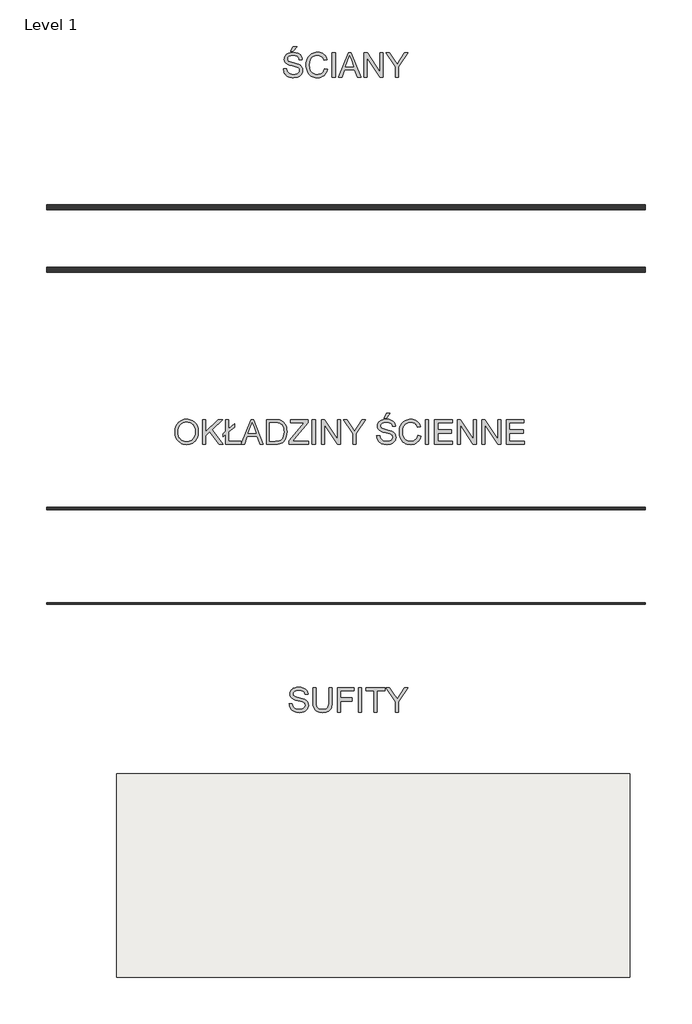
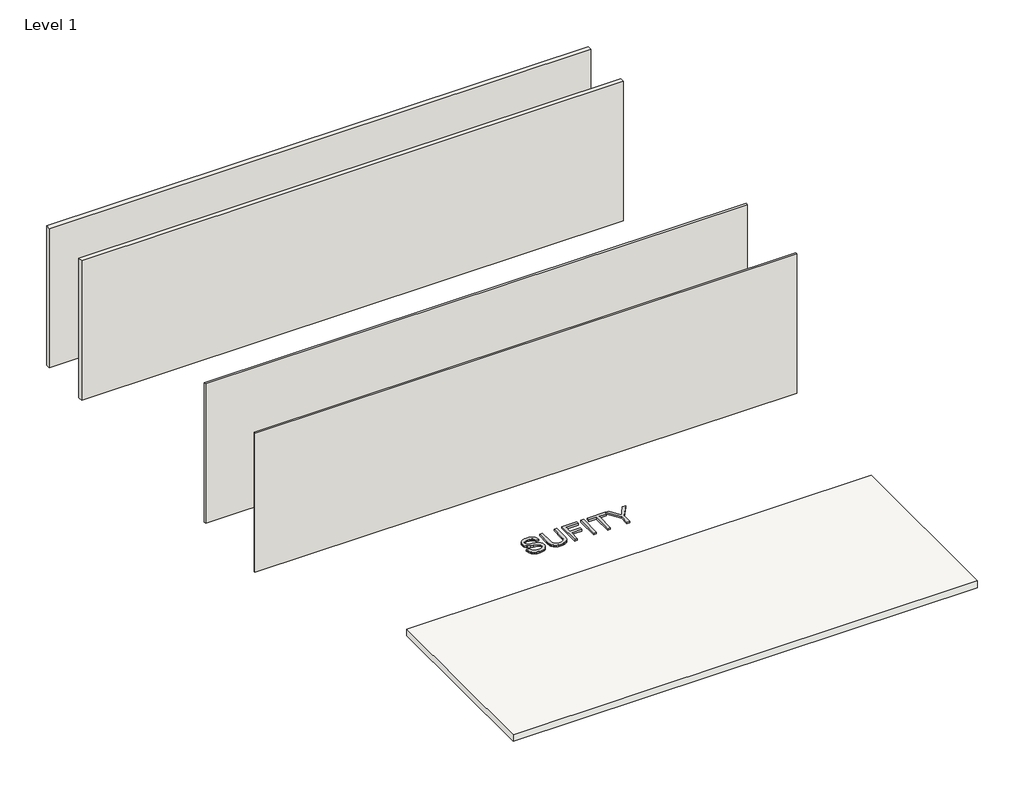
# One storey: 4 walls, 3 proxies, 1 covering.
"""IFC4 building model written with IfcOpenShell, lengths in millimetres."""

from ifc_helpers import new_model, si_unit, frame, origin, origin_with_axes, place, context, project, spatial, polyline, outline, extrude, element, save

model = new_model("IFC4")

# Units and contexts
model_context = context("Model", 3, world=origin())
ifc_project = project(units=[si_unit("LENGTHUNIT", "METRE", prefix="MILLI")], contexts=[model_context])

# Site, building, storey
site = spatial("IfcSite", under=ifc_project)
building = spatial("IfcBuilding", under=site)
storey = spatial("IfcBuildingStorey", under=building, Name="Level 1", Elevation=0.0)

# Proxies
placement = place(None, origin())
element("IfcBuildingElementProxy", 1, Name="600mm Arial", ObjectType="600mm Arial", at=placement, inside=storey, context=model_context, shape_type="SweptSolid", body=[
    extrude(outline(polyline([(366.0588519, 10396.8706448), (441.4010845, 10396.8706448), (450.0463114, 10355.060856), (465.6812962, 10321.4548358), (490.0718724, 10294.7833911), (524.9838738, 10273.7773292), (567.6581852, 10260.1473013), (615.3356918, 10255.6039587), (657.3110275, 10259.0436553), (694.0624388, 10269.3627453), (723.8424863, 10285.6967059), (744.9037305, 10307.1810144), (757.4301124, 10331.8475022), (761.6055731, 10357.7280005), (758.4785761, 10382.9463113), (749.0975853, 10404.7433195), (730.0412979, 10423.3397544), (697.8884115, 10438.956345), (588.1860006, 10467.7247171), (516.1731, 10486.7626103), (470.0958801, 10504.8807986), (432.5903107, 10530.2278681), (406.0108366, 10560.9460146), (390.1735167, 10596.3730508), (384.89441, 10635.8467889), (386.5268864, 10658.282992), (391.4243154, 10679.9742342), (399.5866972, 10700.9205153), (411.0140317, 10721.1218353), (425.5775602, 10739.7550584), (443.148524, 10755.9970485), (463.7269231, 10769.8478056), (487.3127575, 10781.3073298), (540.324553, 10796.7031913), (599.0017312, 10801.8351451), (662.57174, 10796.464068), (718.1954977, 10780.3508366), (742.5308916, 10768.3486865), (763.8864415, 10753.8265447), (782.2621471, 10736.7844113), (797.6580086, 10717.2222862), (809.9544643, 10695.7103865), (819.0319525, 10672.8189294), (824.8904733, 10648.5479147), (827.5300266, 10622.8973426), (752.187794, 10622.8973426), (747.1478107, 10646.938431), (738.355431, 10667.8525224), (725.810655, 10685.6396169), (709.5134826, 10700.2997144), (689.1604112, 10711.7592386), (664.4479382, 10719.944613), (635.3760635, 10724.8558376), (601.9447872, 10726.4929125), (567.4466531, 10724.8742317), (537.9701082, 10720.0181894), (513.5151526, 10711.9247855), (494.0817862, 10700.59402), (479.2745359, 10686.9731891), (468.6979285, 10672.009589), (462.3519641, 10655.7032196), (460.2366426, 10638.0540808), (461.7357618, 10622.8697515), (466.2331192, 10609.1017678), (473.7287148, 10596.7501298), (484.2225487, 10585.8148375), (500.7404503, 10575.4589594), (526.7497074, 10564.9927166), (607.2422879, 10543.7291373), (690.3100424, 10523.5324157), (740.562723, 10505.9108682), (783.5129459, 10478.5772359), (800.1182195, 10462.5099898), (813.4769344, 10444.842457), (823.7454406, 10425.666608), (831.0800879, 10405.0744133), (836.9478057, 10359.6409869), (835.260147, 10336.0735466), (830.1971711, 10313.195885), (821.7588778, 10291.0080022), (809.9452673, 10269.5098981), (794.963273, 10249.5339057), (777.0198287, 10231.9123582), (756.1149343, 10216.6452554), (732.2485899, 10203.7325973), (706.1151726, 10193.4640911), (678.4090599, 10186.1294439), (618.2787478, 10180.261726), (579.7385102, 10181.8436186), (544.4632254, 10186.5892964), (512.4528933, 10194.4987593), (483.7075139, 10205.5720073), (458.0523433, 10219.8274346), (435.3126375, 10237.2834353), (415.4883965, 10257.9400093), (398.5796202, 10281.7971567), (384.9587894, 10308.0823253), (374.9983844, 10336.0229628), (368.6984052, 10365.6190693), (366.0588519, 10396.8706448)])), origin_with_axes(), (0.0, 0.0, 1.0), 50.0),
    extrude(outline(polyline([(544.9966543, 10830.0884823), (601.5033288, 10943.1018312), (695.6811196, 10943.1018312), (601.5033288, 10830.0884823), (544.9966543, 10830.0884823)])), origin_with_axes(), (0.0, 0.0, 1.0), 50.0),
    extrude(outline(polyline([(1373.7612131, 10403.9339791), (1449.1034457, 10384.5098098), (1434.1950278, 10337.6554392), (1414.3385971, 10296.7147716), (1389.5341536, 10261.6878071), (1359.7816972, 10232.5745458), (1325.7526127, 10209.6876871), (1288.1182846, 10193.339931), (1246.8787129, 10183.5312773), (1202.0338977, 10180.261726), (1156.090035, 10182.7357325), (1114.6435298, 10190.1577517), (1077.6943819, 10202.5277838), (1045.2425914, 10219.8458287), (1016.8421013, 10241.8543691), (992.0468549, 10268.2958875), (970.8568519, 10299.1703839), (953.2720926, 10334.4778584), (939.4627222, 10372.6916007), (929.5988862, 10412.2849004), (923.6805846, 10453.2577576), (921.7078174, 10495.6101723), (923.938102, 10541.0527958), (930.6289558, 10583.497181), (941.7803788, 10622.9433279), (957.3923709, 10659.3912366), (977.1154444, 10692.2385002), (1000.6001113, 10720.8827121), (1027.8463715, 10745.3238721), (1058.8542252, 10765.5619804), (1092.57061, 10781.4314899), (1127.9424639, 10792.7668539), (1164.9697867, 10799.5680723), (1203.6525785, 10801.8351451), (1246.7453557, 10798.9012862), (1286.2604805, 10790.0997094), (1322.1979529, 10775.4304149), (1354.5577729, 10754.8934025), (1382.8065116, 10729.0312982), (1406.4107401, 10698.386728), (1425.3704585, 10662.9596919), (1439.6856666, 10622.7501898), (1364.343434, 10604.7975485), (1352.4792396, 10634.4258447), (1338.2238123, 10659.7407245), (1321.577152, 10680.7421879), (1302.5392588, 10697.4302349), (1280.999768, 10710.1451563), (1256.848315, 10719.2272431), (1230.0848998, 10724.6764951), (1200.7095225, 10726.4929125), (1166.9103642, 10724.4787586), (1135.9990796, 10718.4362968), (1107.9756686, 10708.3655272), (1082.8401313, 10694.2664497), (1060.9097658, 10676.7736608), (1042.5018705, 10656.521757), (1027.6164453, 10633.5107382), (1016.2534901, 10607.7406044), (1001.85091, 10552.5950934), (997.05005, 10495.7573251), (1002.7338268, 10426.1540516), (1009.8385479, 10394.884082), (1019.7851573, 10365.9685572), (1032.7346035, 10339.9822928), (1048.8478349, 10317.5001043), (1068.1248515, 10298.5219919), (1090.5656532, 10283.0479555), (1115.0803896, 10271.0412069), (1140.5792104, 10262.4649579), (1167.0621155, 10257.3192085), (1194.529105, 10255.6039587), (1227.2843982, 10257.9400093), (1257.4185321, 10264.9481613), (1284.9315068, 10276.6284147), (1309.8233223, 10292.9807694), (1331.5053674, 10313.931649), (1349.3890309, 10339.4074772), (1363.4743128, 10369.4082539), (1373.7612131, 10403.9339791)])), origin_with_axes(), (0.0, 0.0, 1.0), 50.0),
    extrude(outline(polyline([(1562.1167946, 10189.6795051), (1562.1167946, 10792.417366), (1637.4590272, 10792.417366), (1637.4590272, 10189.6795051), (1562.1167946, 10189.6795051)])), origin_with_axes(), (0.0, 0.0, 1.0), 50.0),
    extrude(outline(polyline([(1717.9516077, 10189.6795051), (1958.5464326, 10792.417366), (2022.7050526, 10792.417366), (2263.2998774, 10189.6795051), (2183.6902136, 10189.6795051), (2114.6755513, 10378.0350866), (1866.428781, 10378.0350866), (1797.5612715, 10189.6795051), (1717.9516077, 10189.6795051)]), holes=[polyline([(1894.093507, 10453.3773193), (2087.1579781, 10453.3773193), (2032.8585956, 10601.5601869), (1990.6257426, 10717.0751334), (1953.1017791, 10614.5096331), (1894.093507, 10453.3773193)])]), origin_with_axes(), (0.0, 0.0, 1.0), 50.0),
    extrude(outline(polyline([(2343.7924579, 10189.6795051), (2343.7924579, 10792.417366), (2424.4321913, 10792.417366), (2739.3391792, 10314.9065363), (2739.3391792, 10792.417366), (2814.6814118, 10792.417366), (2814.6814118, 10189.6795051), (2734.0416784, 10189.6795051), (2419.1346906, 10667.3374877), (2419.1346906, 10189.6795051), (2343.7924579, 10189.6795051)])), origin_with_axes(), (0.0, 0.0, 1.0), 50.0),
    extrude(outline(polyline([(3116.0503422, 10189.6795051), (3116.0503422, 10444.9896098), (2880.6058653, 10792.417366), (2969.4861553, 10792.417366), (3095.1546449, 10606.8576876), (3159.4604177, 10512.2384385), (3223.9133432, 10613.6267164), (3337.9567617, 10792.417366), (3426.8370517, 10792.417366), (3191.3925748, 10444.9896098), (3191.3925748, 10189.6795051), (3116.0503422, 10189.6795051)])), origin_with_axes(), (0.0, 0.0, 1.0), 50.0),
])
element("IfcBuildingElementProxy", 2, Name="600mm Arial", ObjectType="600mm Arial", at=placement, inside=storey, context=model_context, shape_type="SweptSolid", body=[
    extrude(outline(polyline([(-2299.1726268, 1483.1021845), (-2294.1510375, 1553.7999069), (-2279.0862698, 1616.3858313), (-2253.9783237, 1670.8599578), (-2237.6581587, 1695.0550967), (-2218.827199, 1717.2222862), (-2175.7390204, 1754.240412), (-2126.819912, 1780.6819304), (-2072.0698741, 1796.5468414), (-2011.4889066, 1801.8351451), (-1970.9391136, 1799.3519416), (-1932.4310658, 1791.9023312), (-1895.964763, 1779.4863139), (-1861.5402053, 1762.1038896), (-1830.1230829, 1740.2792902), (-1802.6790861, 1714.5367476), (-1779.2082148, 1684.8762618), (-1759.7104691, 1651.2978327), (-1744.388184, 1614.5648154), (-1733.4436946, 1575.4405653), (-1726.877001, 1533.9250821), (-1724.6881031, 1490.018366), (-1726.9919641, 1445.5322357), (-1733.9035471, 1403.4557325), (-1745.4228521, 1363.7888564), (-1761.549879, 1326.5316073), (-1781.9029504, 1292.6680697), (-1806.1003886, 1263.1823278), (-1834.1421937, 1238.0743816), (-1866.0283657, 1217.3442312), (-1900.5035071, 1201.1206352), (-1936.3122208, 1189.5323523), (-1973.4545068, 1182.5793826), (-2011.9303649, 1180.261726), (-2053.1883307, 1182.8231044), (-2092.2022163, 1190.5072396), (-2128.9720217, 1203.3141316), (-2163.497747, 1221.2437803), (-2194.8780811, 1243.6018086), (-2222.2117134, 1269.6938391), (-2245.4986437, 1299.5198718), (-2264.738872, 1333.0799068), (-2279.8036397, 1369.0265763), (-2290.5641881, 1406.0125124), (-2297.0205171, 1444.0377151), (-2299.1726268, 1483.1021845)]), holes=[polyline([(-2223.8303942, 1482.3664205), (-2220.0642022, 1432.4172426), (-2208.7656265, 1388.0782651), (-2189.9346668, 1349.3494881), (-2163.5713234, 1316.2309115), (-2131.5242031, 1289.7066196), (-2095.641913, 1270.7606969), (-2055.924453, 1259.3931432), (-2012.3718233, 1255.6039587), (-1968.0742326, 1259.4299314), (-1927.8877232, 1270.9078497), (-1891.812295, 1290.0377134), (-1859.8479481, 1316.8195226), (-1833.6777427, 1350.6370751), (-1814.9847388, 1390.8741683), (-1803.7689365, 1437.5308023), (-1800.0303357, 1490.6069772), (-1801.6306224, 1525.0867172), (-1806.4314824, 1557.3039829), (-1814.4329158, 1587.2587744), (-1825.6349226, 1614.9510915), (-1839.9133425, 1640.017651), (-1857.1440155, 1662.0951692), (-1877.3269414, 1681.1836462), (-1900.4621204, 1697.2830821), (-1925.8321825, 1710.0623829), (-1952.7197578, 1719.1904549), (-1981.1248464, 1724.6672981), (-2011.0474482, 1726.4929125), (-2053.0871632, 1722.9750409), (-2092.0918517, 1712.4214262), (-2128.0615138, 1694.8320683), (-2160.9961494, 1670.2069672), (-2188.4861315, 1637.3597036), (-2208.121833, 1595.1038579), (-2219.9032539, 1543.4394302), (-2223.8303942, 1482.3664205)])]), origin_with_axes(), (0.0, 0.0, 1.0), 50.0),
    extrude(outline(polyline([(-1056.0257887, 1428.2141908), (-1121.9502422, 1373.3261971), (-1121.9502422, 1448.6684297), (-1056.0257887, 1503.5564234), (-1056.0257887, 1792.417366), (-980.6835561, 1792.417366), (-980.6835561, 1566.3906682), (-839.4168699, 1684.1129066), (-839.4168699, 1608.770674), (-980.6835561, 1491.0484356), (-980.6835561, 1265.0217377), (-679.3146256, 1265.0217377), (-679.3146256, 1189.6795051), (-1056.0257887, 1189.6795051), (-1056.0257887, 1428.2141908)])), origin_with_axes(), (0.0, 0.0, 1.0), 50.0),
    extrude(outline(polyline([(-1621.0925333, 1189.6795051), (-1621.0925333, 1792.417366), (-1545.7503007, 1792.417366), (-1545.7503007, 1497.3760059), (-1236.7294247, 1792.417366), (-1131.3680213, 1792.417366), (-1390.7984043, 1544.6120541), (-1121.9502422, 1189.6795051), (-1214.0678938, 1189.6795051), (-1444.21487, 1493.6971859), (-1545.7503007, 1396.8706448), (-1545.7503007, 1189.6795051), (-1621.0925333, 1189.6795051)])), origin_with_axes(), (0.0, 0.0, 1.0), 50.0),
    extrude(outline(polyline([(-674.1642777, 1189.6795051), (-433.5694528, 1792.417366), (-369.4108329, 1792.417366), (-128.816008, 1189.6795051), (-208.4256718, 1189.6795051), (-277.4403341, 1378.0350866), (-525.6871044, 1378.0350866), (-594.5546139, 1189.6795051), (-674.1642777, 1189.6795051)]), holes=[polyline([(-498.0223784, 1453.3773193), (-304.9579073, 1453.3773193), (-359.2572898, 1601.5601869), (-401.4901429, 1717.0751334), (-439.0141064, 1614.5096331), (-498.0223784, 1453.3773193)])]), origin_with_axes(), (0.0, 0.0, 1.0), 50.0),
    extrude(outline(polyline([(-48.3234275, 1189.6795051), (-48.3234275, 1792.417366), (159.6034762, 1792.417366), (221.7387452, 1790.2468622), (267.1721716, 1783.7353509), (315.2175601, 1766.9967201), (355.758156, 1740.6195811), (378.0977902, 1719.0616962), (397.4391861, 1694.7079081), (413.7823437, 1667.5582168), (427.1272631, 1637.6126224), (437.4923383, 1605.1470364), (444.8959634, 1570.4373701), (450.8188636, 1494.2857971), (446.8089498, 1429.5937483), (434.7792086, 1372.6640095), (416.4586852, 1324.1955567), (393.5764251, 1284.8873655), (367.2360743, 1253.8565192), (338.5412786, 1230.220101), (305.597446, 1212.6905239), (266.509984, 1199.980201), (221.2053163, 1192.2546791), (169.6098664, 1189.6795051), (-48.3234275, 1189.6795051)]), holes=[polyline([(27.0188051, 1265.0217377), (160.3392402, 1265.0217377), (215.4847512, 1267.7440645), (257.3129341, 1275.9110448), (288.8772093, 1289.044432), (313.2309974, 1306.6659796), (339.4058013, 1339.2787185), (359.069094, 1381.4931774), (371.3747467, 1433.4932974), (375.476631, 1495.4630195), (373.4670756, 1539.2041887), (367.4384094, 1577.5742808), (357.3906324, 1610.5732958), (343.3237446, 1638.2012336), (326.3781802, 1661.0834937), (307.6943733, 1679.8454755), (287.2723241, 1694.4871789), (265.1120324, 1705.008604), (221.7755334, 1714.058501), (158.279101, 1717.0751334), (27.0188051, 1717.0751334), (27.0188051, 1265.0217377)])]), origin_with_axes(), (0.0, 0.0, 1.0), 50.0),
    extrude(outline(polyline([(507.325538, 1189.6795051), (507.325538, 1267.8176409), (815.61065, 1645.2645679), (874.1774636, 1717.0751334), (544.9966543, 1717.0751334), (544.9966543, 1792.417366), (968.7967128, 1792.417366), (968.7967128, 1717.0751334), (631.3753468, 1304.0172292), (599.5903424, 1265.0217377), (978.2144918, 1265.0217377), (978.2144918, 1189.6795051), (507.325538, 1189.6795051)])), origin_with_axes(), (0.0, 0.0, 1.0), 50.0),
    extrude(outline(polyline([(1072.3922826, 1189.6795051), (1072.3922826, 1792.417366), (1147.7345152, 1792.417366), (1147.7345152, 1189.6795051), (1072.3922826, 1189.6795051)])), origin_with_axes(), (0.0, 0.0, 1.0), 50.0),
    extrude(outline(polyline([(1298.4189805, 1189.6795051), (1298.4189805, 1792.417366), (1379.0587138, 1792.417366), (1693.9657017, 1314.9065363), (1693.9657017, 1792.417366), (1769.3079343, 1792.417366), (1769.3079343, 1189.6795051), (1688.6682009, 1189.6795051), (1373.7612131, 1667.3374877), (1373.7612131, 1189.6795051), (1298.4189805, 1189.6795051)])), origin_with_axes(), (0.0, 0.0, 1.0), 50.0),
    extrude(outline(polyline([(2070.6768647, 1189.6795051), (2070.6768647, 1444.9896098), (1835.2323878, 1792.417366), (1924.1126778, 1792.417366), (2049.7811674, 1606.8576876), (2114.0869402, 1512.2384385), (2178.5398657, 1613.6267164), (2292.5832842, 1792.417366), (2381.4635743, 1792.417366), (2146.0190973, 1444.9896098), (2146.0190973, 1189.6795051), (2070.6768647, 1189.6795051)])), origin_with_axes(), (0.0, 0.0, 1.0), 50.0),
    extrude(outline(polyline([(2833.5169699, 1830.0884823), (2890.0236444, 1943.1018312), (2984.2014351, 1943.1018312), (2890.0236444, 1830.0884823), (2833.5169699, 1830.0884823)])), origin_with_axes(), (0.0, 0.0, 1.0), 50.0),
    extrude(outline(polyline([(2654.5791675, 1396.8706448), (2729.9214001, 1396.8706448), (2738.566627, 1355.060856), (2754.2016118, 1321.4548358), (2778.592188, 1294.7833911), (2813.5041894, 1273.7773292), (2856.1785008, 1260.1473013), (2903.8560074, 1255.6039587), (2945.8313431, 1259.0436553), (2982.5827544, 1269.3627453), (3012.3628019, 1285.6967059), (3033.4240461, 1307.1810144), (3045.950428, 1331.8475022), (3050.1258887, 1357.7280005), (3046.9988917, 1382.9463113), (3037.6179008, 1404.7433195), (3018.5616135, 1423.3397544), (2986.4087271, 1438.956345), (2876.7063162, 1467.7247171), (2804.6934156, 1486.7626103), (2758.6161957, 1504.8807986), (2721.1106263, 1530.2278681), (2694.5311521, 1560.9460146), (2678.6938323, 1596.3730508), (2673.4147256, 1635.8467889), (2675.047202, 1658.282992), (2679.944631, 1679.9742342), (2688.1070128, 1700.9205153), (2699.5343473, 1721.1218353), (2714.0978758, 1739.7550584), (2731.6688396, 1755.9970485), (2752.2472387, 1769.8478056), (2775.8330731, 1781.3073298), (2828.8448686, 1796.7031913), (2887.5220468, 1801.8351451), (2951.0920556, 1796.464068), (3006.7158133, 1780.3508366), (3031.0512072, 1768.3486865), (3052.4067571, 1753.8265447), (3070.7824627, 1736.7844113), (3086.1783242, 1717.2222862), (3098.4747799, 1695.7103865), (3107.5522681, 1672.8189294), (3113.4107889, 1648.5479147), (3116.0503422, 1622.8973426), (3040.7081096, 1622.8973426), (3035.6681263, 1646.938431), (3026.8757466, 1667.8525224), (3014.3309706, 1685.6396169), (2998.0337982, 1700.2997144), (2977.6807268, 1711.7592386), (2952.9682538, 1719.944613), (2923.8963791, 1724.8558376), (2890.4651028, 1726.4929125), (2855.9669687, 1724.8742317), (2826.4904238, 1720.0181894), (2802.0354682, 1711.9247855), (2782.6021018, 1700.59402), (2767.7948515, 1686.9731891), (2757.2182441, 1672.009589), (2750.8722797, 1655.7032196), (2748.7569582, 1638.0540808), (2750.2560774, 1622.8697515), (2754.7534348, 1609.1017678), (2762.2490304, 1596.7501298), (2772.7428643, 1585.8148375), (2789.2607659, 1575.4589594), (2815.270023, 1564.9927166), (2895.7626035, 1543.7291373), (2978.830358, 1523.5324157), (3029.0830386, 1505.9108682), (3072.0332615, 1478.5772359), (3088.6385351, 1462.5099898), (3101.99725, 1444.842457), (3112.2657562, 1425.666608), (3119.6004035, 1405.0744133), (3125.4681213, 1359.6409869), (3123.7804626, 1336.0735466), (3118.7174867, 1313.195885), (3110.2791934, 1291.0080022), (3098.4655829, 1269.5098981), (3083.4835886, 1249.5339057), (3065.5401443, 1231.9123582), (3044.6352499, 1216.6452554), (3020.7689055, 1203.7325973), (2994.6354882, 1193.4640911), (2966.9293755, 1186.1294439), (2906.7990634, 1180.261726), (2868.2588258, 1181.8436186), (2832.983541, 1186.5892964), (2800.9732089, 1194.4987593), (2772.2278295, 1205.5720073), (2746.5726589, 1219.8274346), (2723.8329531, 1237.2834353), (2704.008712, 1257.9400093), (2687.0999358, 1281.7971567), (2673.479105, 1308.0823253), (2663.5187, 1336.0229628), (2657.2187208, 1365.6190693), (2654.5791675, 1396.8706448)])), origin_with_axes(), (0.0, 0.0, 1.0), 50.0),
    extrude(outline(polyline([(3662.2815287, 1403.9339791), (3737.6237613, 1384.5098098), (3722.7153434, 1337.6554392), (3702.8589127, 1296.7147716), (3678.0544692, 1261.6878071), (3648.3020128, 1232.5745458), (3614.2729283, 1209.6876871), (3576.6386002, 1193.339931), (3535.3990285, 1183.5312773), (3490.5542133, 1180.261726), (3444.6103506, 1182.7357325), (3403.1638454, 1190.1577517), (3366.2146975, 1202.5277838), (3333.762907, 1219.8458287), (3305.3624169, 1241.8543691), (3280.5671705, 1268.2958875), (3259.3771675, 1299.1703839), (3241.7924082, 1334.4778584), (3227.9830378, 1372.6916007), (3218.1192018, 1412.2849004), (3212.2009002, 1453.2577576), (3210.228133, 1495.6101723), (3212.4584176, 1541.0527958), (3219.1492714, 1583.497181), (3230.3006943, 1622.9433279), (3245.9126865, 1659.3912366), (3265.63576, 1692.2385002), (3289.1204269, 1720.8827121), (3316.3666871, 1745.3238721), (3347.3745408, 1765.5619804), (3381.0909256, 1781.4314899), (3416.4627795, 1792.7668539), (3453.4901023, 1799.5680723), (3492.1728941, 1801.8351451), (3535.2656713, 1798.9012862), (3574.7807961, 1790.0997094), (3610.7182685, 1775.4304149), (3643.0780885, 1754.8934025), (3671.3268272, 1729.0312982), (3694.9310557, 1698.386728), (3713.8907741, 1662.9596919), (3728.2059822, 1622.7501898), (3652.8637496, 1604.7975485), (3640.9995552, 1634.4258447), (3626.7441279, 1659.7407245), (3610.0974676, 1680.7421879), (3591.0595744, 1697.4302349), (3569.5200836, 1710.1451563), (3545.3686306, 1719.2272431), (3518.6052154, 1724.6764951), (3489.2298381, 1726.4929125), (3455.4306798, 1724.4787586), (3424.5193952, 1718.4362968), (3396.4959842, 1708.3655272), (3371.3604469, 1694.2664497), (3349.4300814, 1676.7736608), (3331.0221861, 1656.521757), (3316.1367609, 1633.5107382), (3304.7738057, 1607.7406044), (3290.3712256, 1552.5950934), (3285.5703656, 1495.7573251), (3291.2541424, 1426.1540516), (3298.3588635, 1394.884082), (3308.3054729, 1365.9685572), (3321.2549191, 1339.9822928), (3337.3681505, 1317.5001043), (3356.6451671, 1298.5219919), (3379.0859688, 1283.0479555), (3403.6007052, 1271.0412069), (3429.099526, 1262.4649579), (3455.5824311, 1257.3192085), (3483.0494206, 1255.6039587), (3515.8047138, 1257.9400093), (3545.9388477, 1264.9481613), (3573.4518224, 1276.6284147), (3598.3436379, 1292.9807694), (3620.025683, 1313.931649), (3637.9093465, 1339.4074772), (3651.9946284, 1369.4082539), (3662.2815287, 1403.9339791)])), origin_with_axes(), (0.0, 0.0, 1.0), 50.0),
    extrude(outline(polyline([(3850.6371102, 1189.6795051), (3850.6371102, 1792.417366), (3925.9793428, 1792.417366), (3925.9793428, 1189.6795051), (3850.6371102, 1189.6795051)])), origin_with_axes(), (0.0, 0.0, 1.0), 50.0),
    extrude(outline(polyline([(4076.663808, 1189.6795051), (4076.663808, 1792.417366), (4509.8816455, 1792.417366), (4509.8816455, 1717.0751334), (4152.0060406, 1717.0751334), (4152.0060406, 1538.1373309), (4491.0460874, 1538.1373309), (4491.0460874, 1462.7950983), (4152.0060406, 1462.7950983), (4152.0060406, 1265.0217377), (4519.2994246, 1265.0217377), (4519.2994246, 1189.6795051), (4076.663808, 1189.6795051)])), origin_with_axes(), (0.0, 0.0, 1.0), 50.0),
    extrude(outline(polyline([(4632.3127735, 1189.6795051), (4632.3127735, 1792.417366), (4712.9525069, 1792.417366), (5027.8594948, 1314.9065363), (5027.8594948, 1792.417366), (5103.2017274, 1792.417366), (5103.2017274, 1189.6795051), (5022.561994, 1189.6795051), (4707.6550062, 1667.3374877), (4707.6550062, 1189.6795051), (4632.3127735, 1189.6795051)])), origin_with_axes(), (0.0, 0.0, 1.0), 50.0),
    extrude(outline(polyline([(5235.0506344, 1189.6795051), (5235.0506344, 1792.417366), (5315.6903678, 1792.417366), (5630.5973557, 1314.9065363), (5630.5973557, 1792.417366), (5705.9395883, 1792.417366), (5705.9395883, 1189.6795051), (5625.2998549, 1189.6795051), (5310.3928671, 1667.3374877), (5310.3928671, 1189.6795051), (5235.0506344, 1189.6795051)])), origin_with_axes(), (0.0, 0.0, 1.0), 50.0),
    extrude(outline(polyline([(5837.7884953, 1189.6795051), (5837.7884953, 1792.417366), (6271.0063329, 1792.417366), (6271.0063329, 1717.0751334), (5913.1307279, 1717.0751334), (5913.1307279, 1538.1373309), (6252.1707747, 1538.1373309), (6252.1707747, 1462.7950983), (5913.1307279, 1462.7950983), (5913.1307279, 1265.0217377), (6280.4241119, 1265.0217377), (6280.4241119, 1189.6795051), (5837.7884953, 1189.6795051)])), origin_with_axes(), (0.0, 0.0, 1.0), 50.0),
])
element("IfcBuildingElementProxy", 3, Name="600mm Arial", ObjectType="600mm Arial", at=placement, inside=storey, context=model_context, shape_type="SweptSolid", body=[
    extrude(outline(polyline([(506.8680549, -5176.7380011), (582.2102875, -5176.7380011), (590.8555144, -5218.5477899), (606.4904992, -5252.1538101), (630.8810755, -5278.8252548), (665.7930769, -5299.8313167), (708.4673883, -5313.4613446), (756.1448949, -5318.0046873), (798.1202305, -5314.5649906), (834.8716418, -5304.2459006), (864.6516893, -5287.9119401), (885.7129336, -5266.4276315), (898.2393155, -5241.7611438), (902.4147761, -5215.8806454), (899.2877792, -5190.6623346), (889.9067883, -5168.8653264), (870.850501, -5150.2688916), (838.6976146, -5134.6523009), (728.9952036, -5105.8839288), (656.9823031, -5086.8460356), (610.9050832, -5068.7278473), (573.3995138, -5043.3807779), (546.8200396, -5012.6626313), (530.9827197, -4977.2355951), (525.7036131, -4937.761857), (527.3360894, -4915.3256539), (532.2335185, -4893.6344117), (540.3959003, -4872.6881306), (551.8232347, -4852.4868106), (566.3867632, -4833.8535875), (583.957727, -4817.6115974), (604.5361261, -4803.7608403), (628.1219605, -4792.3013162), (681.1337561, -4776.9054547), (739.8109343, -4771.7735008), (803.380943, -4777.144578), (859.0047007, -4793.2578093), (883.3400947, -4805.2599594), (904.6956445, -4819.7821012), (923.0713502, -4836.8242346), (938.4672117, -4856.3863597), (950.7636674, -4877.8982594), (959.8411556, -4900.7897165), (965.6996764, -4925.0607312), (968.3392297, -4950.7113033), (892.9969971, -4950.7113033), (887.9570137, -4926.6702149), (879.1646341, -4905.7561235), (866.619858, -4887.969029), (850.3226856, -4873.3089315), (829.9696142, -4861.8494073), (805.2571412, -4853.664033), (776.1852666, -4848.7528083), (742.7539902, -4847.1157334), (708.2558561, -4848.7344142), (678.7793113, -4853.5904566), (654.3243557, -4861.6838604), (634.8909893, -4873.0146259), (620.083739, -4886.6354568), (609.5071316, -4901.5990569), (603.1611672, -4917.9054264), (601.0458457, -4935.5545651), (602.5449648, -4950.7388944), (607.0423222, -4964.5068781), (614.5379179, -4976.8585161), (625.0317518, -4987.7938084), (641.5496534, -4998.1496866), (667.5589104, -5008.6159293), (748.051491, -5029.8795086), (831.1192455, -5050.0762302), (881.371926, -5067.6977777), (924.322149, -5095.03141), (940.9274225, -5111.0986561), (954.2861375, -5128.7661889), (964.5546437, -5147.9420379), (971.8892909, -5168.5342326), (977.7570088, -5213.967659), (976.0693501, -5237.5350993), (971.0063742, -5260.4127609), (962.5680809, -5282.6006438), (950.7544703, -5304.0987478), (935.7724761, -5324.0747402), (917.8290317, -5341.6962878), (896.9241374, -5356.9633906), (873.0577929, -5369.8760486), (846.9243757, -5380.1445548), (819.2182629, -5387.4792021), (759.0879508, -5393.3469199), (720.5477133, -5391.7650273), (685.2724285, -5387.0193496), (653.2620964, -5379.1098867), (624.516717, -5368.0366386), (598.8615464, -5353.7812113), (576.1218405, -5336.3252106), (556.2975995, -5315.6686366), (539.3888233, -5291.8114892), (525.7679924, -5265.5263207), (515.8075874, -5237.5856831), (509.5076083, -5207.9895766), (506.8680549, -5176.7380011)])), origin_with_axes(), (0.0, 0.0, 1.0), 50.0),
    extrude(outline(polyline([(1486.3170789, -4781.1912799), (1561.6593115, -4781.1912799), (1561.6593115, -5128.9133417), (1556.5457518, -5210.3440214), (1550.1538021, -5244.0374136), (1541.2050726, -5273.0495075), (1528.927011, -5298.4793504), (1512.5470652, -5321.4259898), (1492.0652351, -5341.8894258), (1467.4815207, -5359.8696583), (1438.768331, -5374.5159602), (1405.8980747, -5384.9776045), (1368.8707519, -5391.254591), (1327.6863626, -5393.3469199), (1287.5182472, -5391.525904), (1251.1853017, -5386.0628564), (1218.6875259, -5376.957777), (1190.02492, -5364.2106659), (1165.1928853, -5348.0100625), (1144.1868234, -5328.5445064), (1127.0067342, -5305.8139976), (1113.6526178, -5279.8185362), (1103.641629, -5249.6660081), (1096.4909227, -5214.4642997), (1092.2004989, -5174.2134109), (1090.7703577, -5128.9133417), (1090.7703577, -4781.1912799), (1166.1125903, -4781.1912799), (1166.1125903, -5126.2645914), (1169.8281984, -5193.9732726), (1180.9750229, -5241.1173503), (1189.7398114, -5258.495176), (1201.1717444, -5273.7668773), (1215.2708219, -5286.9324542), (1232.0370438, -5297.9919067), (1272.2833341, -5313.0014921), (1320.6230283, -5318.0046873), (1362.1477085, -5315.5306808), (1397.2528479, -5308.1086616), (1425.9384464, -5295.7386295), (1448.2045042, -5278.4205846), (1464.8787556, -5254.0667965), (1476.7889352, -5220.5895349), (1483.935043, -5177.9887999), (1486.3170789, -5126.2645914), (1486.3170789, -4781.1912799)])), origin_with_axes(), (0.0, 0.0, 1.0), 50.0),
    extrude(outline(polyline([(1693.5082186, -5383.9291408), (1693.5082186, -4781.1912799), (2098.4727189, -4781.1912799), (2098.4727189, -4856.5335125), (1768.8504512, -4856.5335125), (1768.8504512, -5035.471315), (2051.3838235, -5035.471315), (2051.3838235, -5110.8135476), (1768.8504512, -5110.8135476), (1768.8504512, -5383.9291408), (1693.5082186, -5383.9291408)])), origin_with_axes(), (0.0, 0.0, 1.0), 50.0),
    extrude(outline(polyline([(2211.4860678, -5383.9291408), (2211.4860678, -4781.1912799), (2286.8283004, -4781.1912799), (2286.8283004, -5383.9291408), (2211.4860678, -5383.9291408)])), origin_with_axes(), (0.0, 0.0, 1.0), 50.0),
    extrude(outline(polyline([(2588.1972308, -5383.9291408), (2588.1972308, -4856.5335125), (2390.4238702, -4856.5335125), (2390.4238702, -4781.1912799), (2861.3128241, -4781.1912799), (2861.3128241, -4856.5335125), (2663.5394635, -4856.5335125), (2663.5394635, -5383.9291408), (2588.1972308, -5383.9291408)])), origin_with_axes(), (0.0, 0.0, 1.0), 50.0),
    extrude(outline(polyline([(3115.5928591, -5383.9291408), (3115.5928591, -5128.6190361), (2880.1483822, -4781.1912799), (2969.0286723, -4781.1912799), (3094.6971618, -4966.7509583), (3159.0029346, -5061.3702074), (3223.4558601, -4959.9819296), (3337.4992786, -4781.1912799), (3426.3795687, -4781.1912799), (3190.9350917, -5128.6190361), (3190.9350917, -5383.9291408), (3115.5928591, -5383.9291408)])), origin_with_axes(), (0.0, 0.0, 1.0), 50.0),
])

# Covering
element("IfcCovering", 4, ObjectType="Nida Sufit WON/CD60-12,5/Hydro", at=placement, inside=storey, context=model_context, shape_type="SweptSolid", body=[
    extrude(outline(polyline([(8869.8075243, -6892.1972386), (8869.8075243, -11892.1972386), (-3730.1924757, -11892.1972386), (-3730.1924757, -6892.1972386), (8869.8075243, -6892.1972386)])), frame((0.0, 0.0, 100.0), z_axis=(0.0, 0.0, 1.0), x_axis=(1.0, 0.0, 0.0)), (0.0, 0.0, 1.0), 192.5),
])

# Walls
element("IfcWall", 5, ObjectType="Nida Ściana 124A100/Cementex", at=placement, inside=storey, context=model_context, shape_type="SweptSolid", body=[
    extrude(outline(polyline([(9249.3347175, 6934.5219941), (-5450.6652825, 6934.5219941), (-5450.6652825, 7058.5219941), (9249.3347175, 7058.5219941), (9249.3347175, 6934.5219941)])), origin_with_axes(), (0.0, 0.0, 1.0), 4000.0),
])
element("IfcWall", 6, ObjectType="Nida Ściana 125A75/Hydro", at=placement, inside=storey, context=model_context, shape_type="SweptSolid", body=[
    extrude(outline(polyline([(9249.3347175, 5409.5219941), (-5450.6652825, 5409.5219941), (-5450.6652825, 5534.5219941), (9249.3347175, 5534.5219941), (9249.3347175, 5409.5219941)])), origin_with_axes(), (0.0, 0.0, 1.0), 4000.0),
])
element("IfcWall", 7, ObjectType="Nida Tynk CD/ES-25/Hydro", at=placement, inside=storey, context=model_context, shape_type="SweptSolid", body=[
    extrude(outline(polyline([(9249.3347175, -417.9780059), (-5450.6652825, -417.9780059), (-5450.6652825, -362.9780059), (9249.3347175, -362.9780059), (9249.3347175, -417.9780059)])), origin_with_axes(), (0.0, 0.0, 1.0), 4000.0),
])
element("IfcWall", 8, ObjectType="Nida Tynk CD/ES-12,5/Hydro", at=placement, inside=storey, context=model_context, shape_type="SweptSolid", body=[
    extrude(outline(polyline([(9249.3347175, -2739.2280059), (-5450.6652825, -2739.2280059), (-5450.6652825, -2696.7280059), (9249.3347175, -2696.7280059), (9249.3347175, -2739.2280059)])), origin_with_axes(), (0.0, 0.0, 1.0), 4000.0),
])

save(model, "model.ifc")
